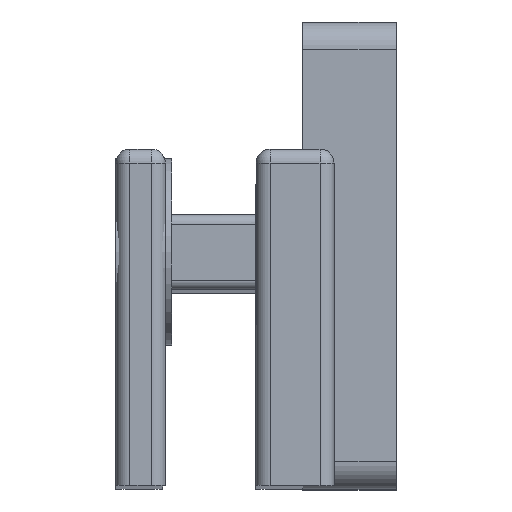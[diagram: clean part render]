
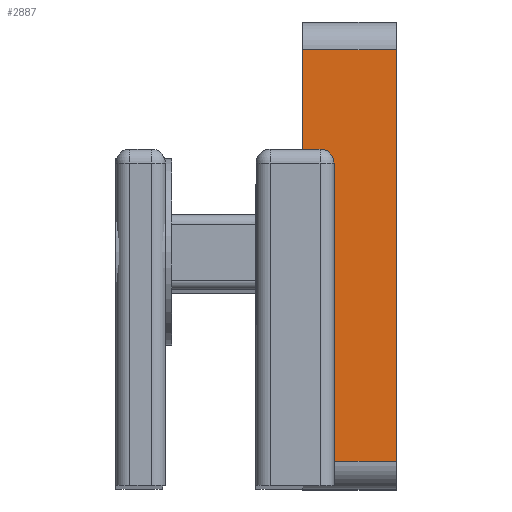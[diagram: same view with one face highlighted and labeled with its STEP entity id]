
A CAD part, top view. The second image highlights one B-rep face of the part: STEP entity #2887.
In plain terms, the highlighted planar face has unit normal (0, 0, 1).
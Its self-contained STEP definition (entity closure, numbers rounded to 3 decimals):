
#79 = LINE ( 'NONE', #1362, #1705 ) ;
#108 = VERTEX_POINT ( 'NONE', #2065 ) ;
#158 = CARTESIAN_POINT ( 'NONE',  ( 20., 26., -107. ) ) ;
#162 = EDGE_CURVE ( 'NONE', #1853, #2036, #79, .T. ) ;
#241 = ORIENTED_EDGE ( 'NONE', *, *, #162, .F. ) ;
#251 = VECTOR ( 'NONE', #1057, 1000. ) ;
#319 = LINE ( 'NONE', #1224, #1011 ) ;
#557 = CARTESIAN_POINT ( 'NONE',  ( 20., 0., -107. ) ) ;
#686 = ORIENTED_EDGE ( 'NONE', *, *, #2728, .T. ) ;
#723 = VERTEX_POINT ( 'NONE', #922 ) ;
#805 = ORIENTED_EDGE ( 'NONE', *, *, #2147, .T. ) ;
#889 = VECTOR ( 'NONE', #1809, 1000. ) ;
#922 = CARTESIAN_POINT ( 'NONE',  ( 10., 26., -107. ) ) ;
#938 = EDGE_CURVE ( 'NONE', #2036, #723, #319, .T. ) ;
#1011 = VECTOR ( 'NONE', #1667, 1000. ) ;
#1057 = DIRECTION ( 'NONE',  ( -1., 0., 0. ) ) ;
#1224 = CARTESIAN_POINT ( 'NONE',  ( 10., 0., -107. ) ) ;
#1234 = DIRECTION ( 'NONE',  ( 0., 0., 1. ) ) ;
#1251 = VECTOR ( 'NONE', #1350, 1000. ) ;
#1333 = VERTEX_POINT ( 'NONE', #1451 ) ;
#1350 = DIRECTION ( 'NONE',  ( 1., 0., 0. ) ) ;
#1362 = CARTESIAN_POINT ( 'NONE',  ( 10., 0., -107. ) ) ;
#1381 = LINE ( 'NONE', #2930, #889 ) ;
#1407 = DIRECTION ( 'NONE',  ( 0., 1., 0. ) ) ;
#1451 = CARTESIAN_POINT ( 'NONE',  ( 20., 26., -107. ) ) ;
#1490 = EDGE_LOOP ( 'NONE', ( #241, #2042, #686, #805, #2759 ) ) ;
#1667 = DIRECTION ( 'NONE',  ( 0., 1., 0. ) ) ;
#1693 = FACE_OUTER_BOUND ( 'NONE', #1490, .T. ) ;
#1705 = VECTOR ( 'NONE', #1407, 1000. ) ;
#1729 = LINE ( 'NONE', #158, #251 ) ;
#1809 = DIRECTION ( 'NONE',  ( 0., 1., 0. ) ) ;
#1853 = VERTEX_POINT ( 'NONE', #2670 ) ;
#2036 = VERTEX_POINT ( 'NONE', #2084 ) ;
#2042 = ORIENTED_EDGE ( 'NONE', *, *, #2270, .T. ) ;
#2065 = CARTESIAN_POINT ( 'NONE',  ( 20., -18., -107. ) ) ;
#2084 = CARTESIAN_POINT ( 'NONE',  ( 10., 15., -107. ) ) ;
#2147 = EDGE_CURVE ( 'NONE', #1333, #723, #1729, .T. ) ;
#2150 = DIRECTION ( 'NONE',  ( 1., 0., 0. ) ) ;
#2270 = EDGE_CURVE ( 'NONE', #1853, #108, #2493, .T. ) ;
#2432 = CARTESIAN_POINT ( 'NONE',  ( 20., -18., -107. ) ) ;
#2493 = LINE ( 'NONE', #2432, #1251 ) ;
#2591 = PLANE ( 'NONE',  #2609 ) ;
#2609 = AXIS2_PLACEMENT_3D ( 'NONE', #557, #1234, #2150 ) ;
#2670 = CARTESIAN_POINT ( 'NONE',  ( 10., -18., -107. ) ) ;
#2728 = EDGE_CURVE ( 'NONE', #108, #1333, #1381, .T. ) ;
#2759 = ORIENTED_EDGE ( 'NONE', *, *, #938, .F. ) ;
#2887 = ADVANCED_FACE ( 'NONE', ( #1693 ), #2591, .T. ) ;
#2930 = CARTESIAN_POINT ( 'NONE',  ( 20., 0., -107. ) ) ;
